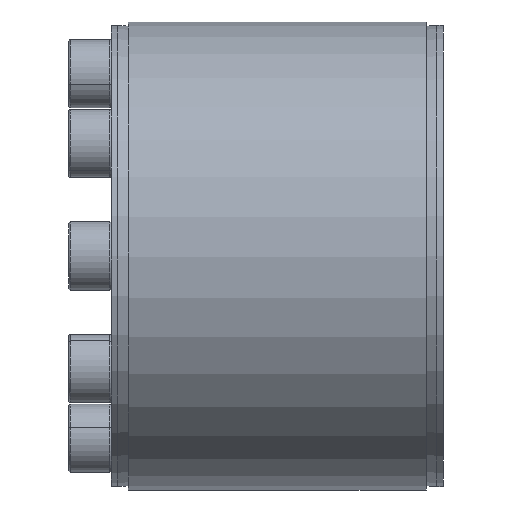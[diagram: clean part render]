
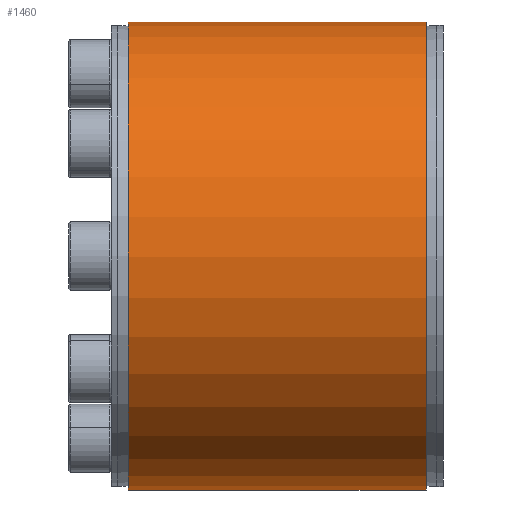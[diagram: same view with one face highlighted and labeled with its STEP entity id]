
A CAD part, front view. The second image highlights one B-rep face of the part: STEP entity #1460.
In plain terms, the highlighted cylindrical face has radius 55 mm (diameter 110 mm), a partial arc.
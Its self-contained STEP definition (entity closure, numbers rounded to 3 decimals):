
#24 = VERTEX_POINT ( 'NONE', #3945 ) ;
#155 = VERTEX_POINT ( 'NONE', #1297 ) ;
#414 = EDGE_CURVE ( 'NONE', #155, #490, #1370, .T. ) ;
#417 = CARTESIAN_POINT ( 'NONE',  ( 0., -0.5, 54.998 ) ) ;
#445 = EDGE_CURVE ( 'NONE', #24, #1555, #2206, .T. ) ;
#490 = VERTEX_POINT ( 'NONE', #1181 ) ;
#576 = CARTESIAN_POINT ( 'NONE',  ( 0., 0., 0. ) ) ;
#660 = EDGE_CURVE ( 'NONE', #155, #24, #2357, .T. ) ;
#677 = DIRECTION ( 'NONE',  ( -1., 0., 0. ) ) ;
#739 = EDGE_LOOP ( 'NONE', ( #1306, #2600, #3732, #2765 ) ) ;
#814 = DIRECTION ( 'NONE',  ( 1., 0., 0. ) ) ;
#905 = CARTESIAN_POINT ( 'NONE',  ( 4., 0., 0. ) ) ;
#992 = DIRECTION ( 'NONE',  ( -1., 0., 0. ) ) ;
#1119 = CARTESIAN_POINT ( 'NONE',  ( 0., 0.5, 54.998 ) ) ;
#1134 = FACE_OUTER_BOUND ( 'NONE', #739, .T. ) ;
#1181 = CARTESIAN_POINT ( 'NONE',  ( 4., -0.5, 54.998 ) ) ;
#1297 = CARTESIAN_POINT ( 'NONE',  ( 4., 0.5, 54.998 ) ) ;
#1306 = ORIENTED_EDGE ( 'NONE', *, *, #414, .F. ) ;
#1370 = CIRCLE ( 'NONE', #3036, 55. ) ;
#1422 = VECTOR ( 'NONE', #2225, 1000. ) ;
#1460 = ADVANCED_FACE ( 'NONE', ( #1134 ), #1856, .T. ) ;
#1507 = CARTESIAN_POINT ( 'NONE',  ( 74., 0., 0. ) ) ;
#1555 = VERTEX_POINT ( 'NONE', #3599 ) ;
#1856 = CYLINDRICAL_SURFACE ( 'NONE', #3191, 55. ) ;
#1968 = AXIS2_PLACEMENT_3D ( 'NONE', #1507, #992, #3636 ) ;
#2127 = DIRECTION ( 'NONE',  ( 0., 0., 1. ) ) ;
#2206 = CIRCLE ( 'NONE', #1968, 55. ) ;
#2225 = DIRECTION ( 'NONE',  ( -1., 0., 0. ) ) ;
#2357 = LINE ( 'NONE', #1119, #3683 ) ;
#2600 = ORIENTED_EDGE ( 'NONE', *, *, #660, .T. ) ;
#2765 = ORIENTED_EDGE ( 'NONE', *, *, #3579, .T. ) ;
#2847 = DIRECTION ( 'NONE',  ( 0., 0., 1. ) ) ;
#3036 = AXIS2_PLACEMENT_3D ( 'NONE', #905, #677, #2847 ) ;
#3191 = AXIS2_PLACEMENT_3D ( 'NONE', #576, #3954, #2127 ) ;
#3579 = EDGE_CURVE ( 'NONE', #1555, #490, #3872, .T. ) ;
#3599 = CARTESIAN_POINT ( 'NONE',  ( 74., -0.5, 54.998 ) ) ;
#3636 = DIRECTION ( 'NONE',  ( 0., 0., 1. ) ) ;
#3683 = VECTOR ( 'NONE', #814, 1000. ) ;
#3732 = ORIENTED_EDGE ( 'NONE', *, *, #445, .T. ) ;
#3872 = LINE ( 'NONE', #417, #1422 ) ;
#3945 = CARTESIAN_POINT ( 'NONE',  ( 74., 0.5, 54.998 ) ) ;
#3954 = DIRECTION ( 'NONE',  ( -1., 0., 0. ) ) ;
